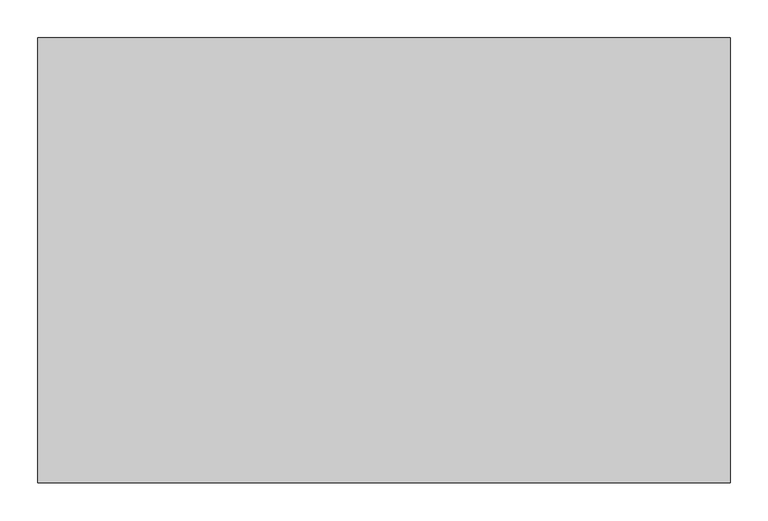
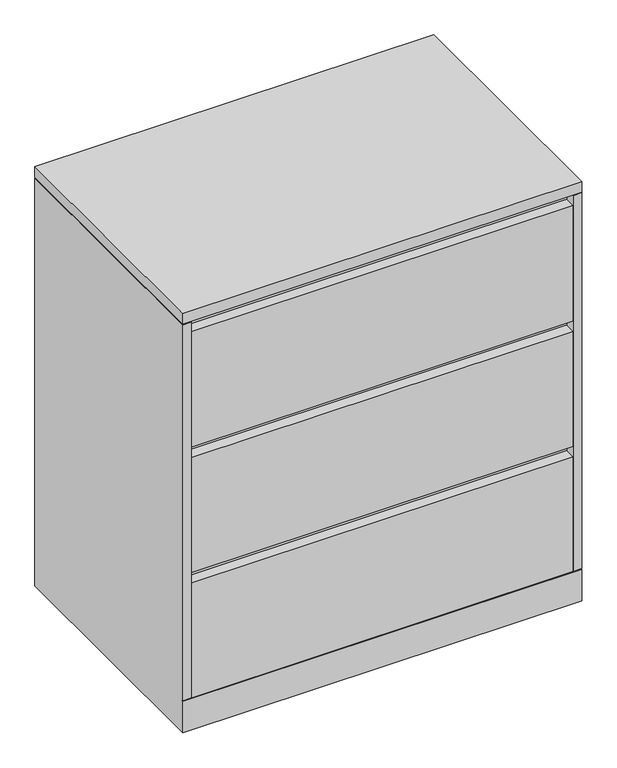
"""IFC4 building model written with IfcOpenShell, lengths in millimetres: furniture geometry, Steelcase - Universal Storage - Lateral File - 3 and 4 High - Flush Steel : 3 Drawers - 23 1/8D x 36W."""

from ifc_helpers import new_model, si_unit, frame, origin, place, context, project, spatial, polyline, outline, extrude, faceted_brep, source, transform, mapped, element, save


def furniture_1afd3a15(model_context):
    return source(origin(), model_context, "Body", "SolidModel", [
        extrude(outline(polyline([(914.4, 587.502), (914.4, 0.0), (0.0, 0.0), (0.0, 587.502), (914.4, 587.502)])), frame((0.0, 0.0, 990.6), z_axis=(0.0, 0.0, 1.0), x_axis=(1.0, 0.0, 0.0)), (0.0, 0.0, 1.0), 25.4),
        faceted_brep([(914.4, 0.0, 0.0), (914.4, 587.502, 0.0), (914.4, 587.502, 989.0759651), (914.4, 0.0, 989.0759651), (914.4, 0.0, 77.7239985), (914.4, 1.524, 77.7239985), (914.4, 1.524, 76.2), (914.4, 0.0, 76.2), (0.0, 0.0, 0.0), (0.0, 0.0, 76.2), (0.0, 1.524, 76.2), (0.0, 1.524, 77.7239985), (0.0, 0.0, 77.7239985), (0.0, 0.0, 989.0759651), (0.0, 587.502, 989.0759651), (0.0, 587.502, 0.0), (19.304, 0.0, 989.0759651), (19.304, 25.4000121, 989.0759651), (895.096, 25.4000121, 989.0759651), (895.096, 0.0, 989.0759651), (19.304, 25.4000121, 101.600003), (895.096, 25.4000121, 101.600003), (19.304, 1.524, 101.600003), (895.096, 1.524, 101.600003), (895.096, 1.524, 77.7239985), (19.304, 1.524, 77.7239985), (19.304, 0.0, 77.7239985), (895.096, 0.0, 77.7239985)], [[[0, 1, 2, 3, 4, 5, 6, 7]], [[8, 9, 10, 11, 12, 13, 14, 15]], [[1, 0, 8, 15]], [[2, 1, 15, 14]], [[3, 2, 14, 13, 16, 17, 18, 19]], [[17, 20, 21, 18]], [[20, 22, 23, 21]], [[10, 6, 5, 24, 23, 22, 25, 11]], [[7, 6, 10, 9]], [[0, 7, 9, 8]], [[17, 16, 26, 25, 22, 20]], [[26, 16, 13, 12]], [[25, 26, 12, 11]], [[24, 27, 19, 18, 21, 23]], [[27, 24, 5, 4]], [[19, 27, 4, 3]]]),
        extrude(outline(polyline([(889.0000242, 562.1019992), (889.0000242, 25.4000121), (25.4000008, 25.4000121), (25.4000008, 562.1019992), (889.0000242, 562.1019992)])), frame((0.0, 0.0, 989.0759651), z_axis=(0.0, 0.0, 1.0), x_axis=(1.0, 0.0, 0.0)), (0.0, 0.0, 1.0), 1.5240349),
        extrude(outline(polyline([(893.5719835, 0.0), (20.8280006, 0.0), (20.8280006, 25.4000121), (893.5719835, 25.4000121), (893.5719835, 0.0)])), frame((0.0, 0.0, 685.8), z_axis=(0.0, 0.0, 1.0), x_axis=(1.0, 0.0, 0.0)), (0.0, 0.0, 1.0), 279.4),
        extrude(outline(polyline([(893.5719835, 0.0), (20.8280006, 0.0), (20.8280006, 25.4000121), (893.5719835, 25.4000121), (893.5719835, 0.0)])), frame((0.0, 0.0, 381.0), z_axis=(0.0, 0.0, 1.0), x_axis=(1.0, 0.0, 0.0)), (0.0, 0.0, 1.0), 279.4),
        extrude(outline(polyline([(893.5719835, 0.0), (20.8280006, 0.0), (20.8280006, 25.4000121), (893.5719835, 25.4000121), (893.5719835, 0.0)])), frame((0.0, 0.0, 77.7239985), z_axis=(0.0, 0.0, 1.0), x_axis=(1.0, 0.0, 0.0)), (0.0, 0.0, 1.0), 277.8759893),
    ])


if __name__ == "__main__":
    model = new_model("IFC4")
    model_context = context("Model", 3, world=origin())
    ifc_project = project(units=[si_unit("LENGTHUNIT", "METRE", prefix="MILLI")], contexts=[model_context])
    site = spatial("IfcSite", under=ifc_project)
    building = spatial("IfcBuilding", under=site)
    placement = place(None, origin())
    furniture_shape = furniture_1afd3a15(model_context)
    element("IfcFurniture", 1, ObjectType="Steelcase - Universal Storage - Lateral File - 3 and 4 High - Flush Steel : 3 Drawers - 23 1/8D x 36W", at=placement, inside=building, context=model_context, shape_type="MappedRepresentation", body=[
        mapped(furniture_shape, transform((0.0, 0.0, 0.0), x_axis=(1.0, 0.0, 0.0), y_axis=(0.0, 1.0, 0.0), z_axis=(0.0, 0.0, 1.0))),
    ])
    save(model, "model.ifc")
